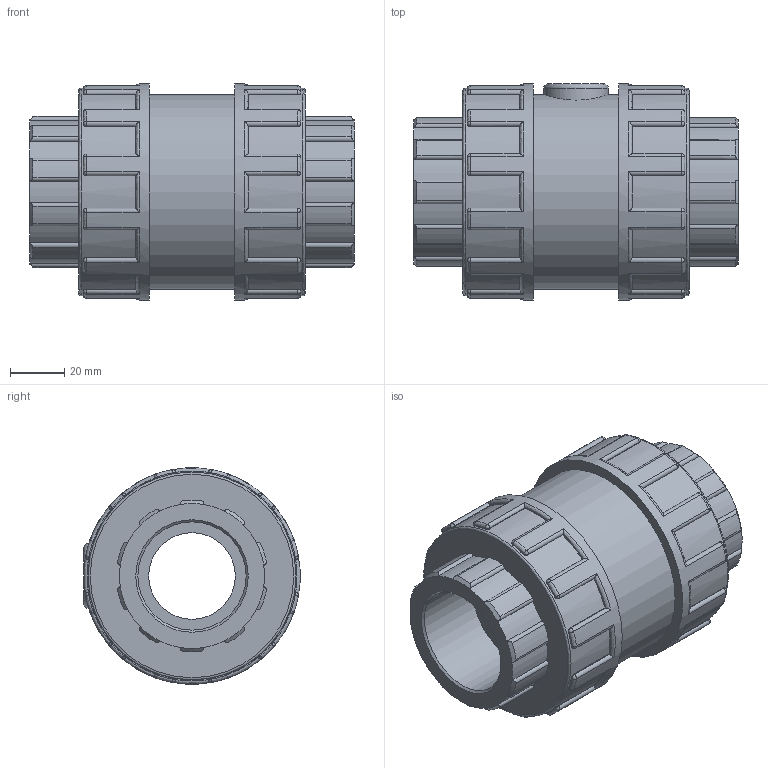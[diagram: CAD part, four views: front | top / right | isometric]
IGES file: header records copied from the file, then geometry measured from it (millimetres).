
Global section: file name: 11080040.ipt; native system: Autodesk Inventor 2015; preprocessor: unknown; author: KIM; date: 20171207.170029; units: millimetre
Bounding box: 120 x 80 x 80 mm (x, y, z)
Volume: 346683.5 mm3; surface area: 51088.6 mm2
Topology: 1 solids, 1 shells, 411 faces, 1033 edges, 630 vertices
Faces by surface type: cylinder 182, plane 105, revolution 56, sphere 48, cone 20
Full cylindrical faces by diameter (mm): 24 x1, 72 x1, 76.8 x2, 80 x2
